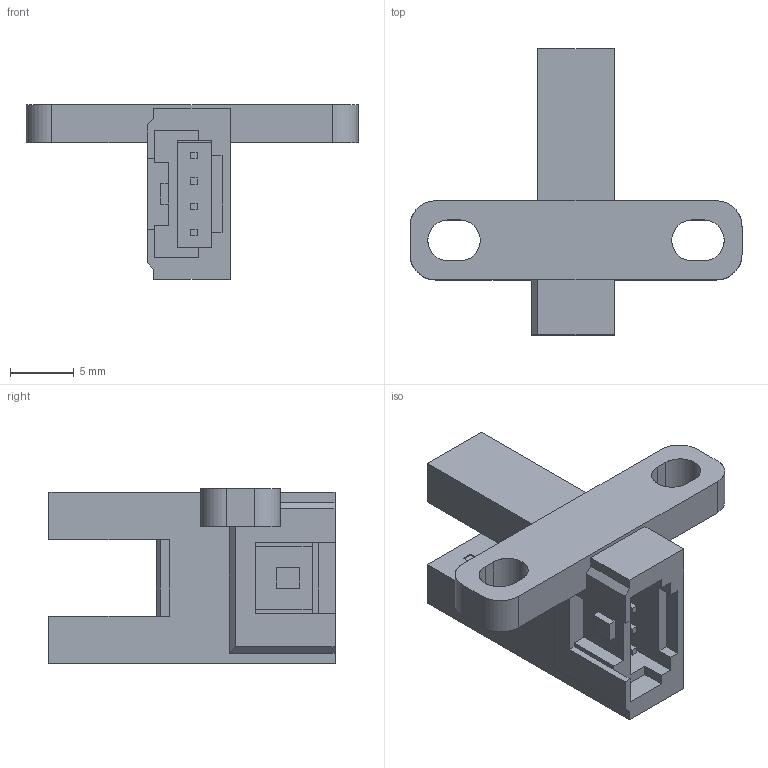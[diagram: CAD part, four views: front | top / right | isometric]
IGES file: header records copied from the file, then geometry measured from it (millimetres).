
Start section: SolidWorks IGES file using analytic representation for surfaces
Global section: file name: C:\catalog\pm-t65.IGS; native system: SolidWorks 2010; preprocessor: SolidWorks 2010; author: C0278; date: 150807.171652; units: millimetre
Bounding box: 26 x 22.4 x 13.7 mm (x, y, z)
Surface area: 1592.9 mm2 (no closed solid volume)
Topology: 0 solids, 0 shells, 120 faces, 822 edges, 822 vertices
Faces by surface type: bspline 110, revolution 10
